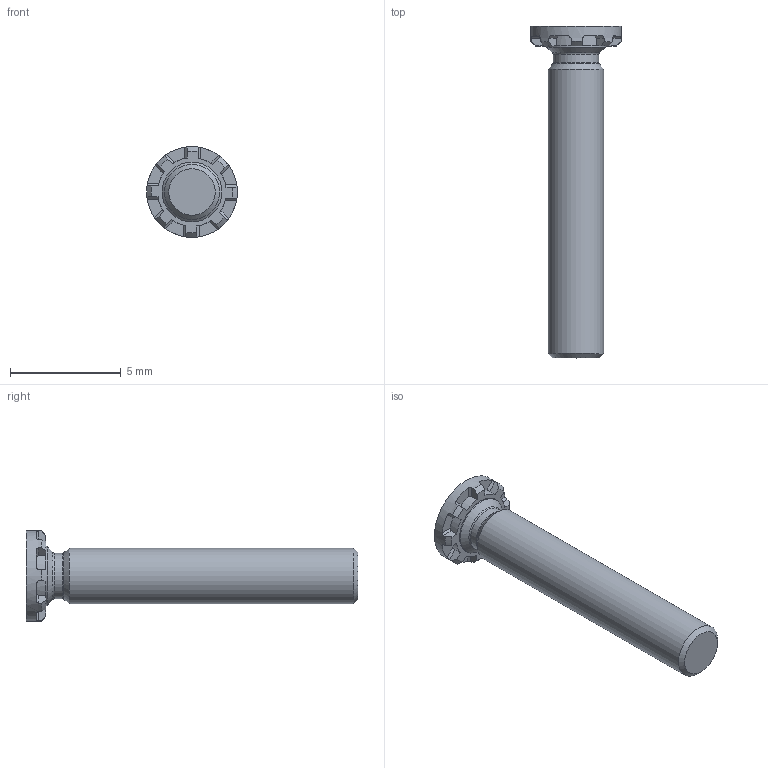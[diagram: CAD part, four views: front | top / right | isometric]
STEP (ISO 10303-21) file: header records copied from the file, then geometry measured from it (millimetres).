
FILE_DESCRIPTION(/* description */ (''),/* implementation_level */ '2;1');
FILE_NAME(/* name */ 'C:\Users\keval.kumar\Desktop\Fastit\Clinch Screw- FH Range\M2.5\Clinch Screw-FH Range_M2.5x15.stp',/* time_stamp */ '2024-03-12T11:46:41+05:00',/* author */ ('keval.kumar'),/* organization */ (''),/* preprocessor_version */ 'ST-DEVELOPER v18.1',/* originating_system */ 'Autodesk Inventor 2022',/* authorisation */ '');
FILE_SCHEMA (('AUTOMOTIVE_DESIGN { 1 0 10303 214 3 1 1 }'));
Length unit declared in the file: millimetre
Products named in the file (1): Clinch Screw-FH Range_M2.5x15
Bounding box: 4.1 x 15 x 4.1 mm (x, y, z)
Volume: 78.2 mm3; surface area: 148.6 mm2
Topology: 1 solids, 1 shells, 68 faces, 193 edges, 128 vertices
Faces by surface type: plane 43, cylinder 12, cone 11, torus 2
Full cylindrical faces by diameter (mm): 2.05 x1, 2.5 x1, 2.7 x1, 4.1 x1
Entity records: 2278 total; most frequent: CARTESIAN_POINT 422, DIRECTION 405, ORIENTED_EDGE 386, EDGE_CURVE 193, AXIS2_PLACEMENT_3D 159, VERTEX_POINT 128, LINE 87, VECTOR 87
